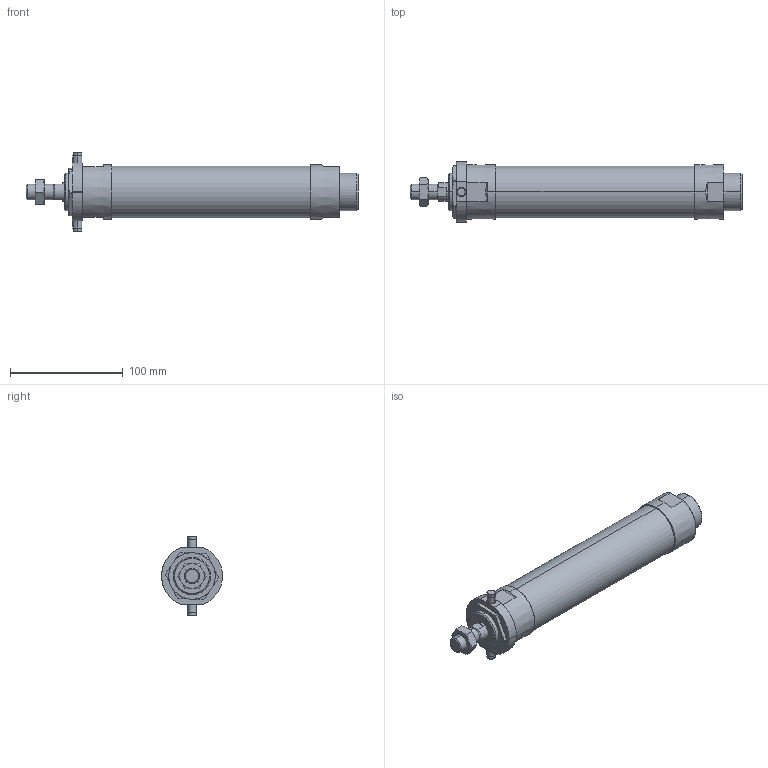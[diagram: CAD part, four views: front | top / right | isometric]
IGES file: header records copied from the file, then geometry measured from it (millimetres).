
Start section: SolidWorks IGES file using analytic representation for surfaces
Global section: file name: C:\Users\Toshiba\Desktop\J#2-40-125-T.IGS; native system: SolidWorks 2014; preprocessor: SolidWorks 2014; author: Toshiba; date: 160308.160051; units: millimetre
Bounding box: 294 x 54 x 70 mm (x, y, z)
Surface area: 52335.6 mm2 (no closed solid volume)
Topology: 0 solids, 0 shells, 121 faces, 2282 edges, 2278 vertices
Faces by surface type: bspline 63, revolution 58
